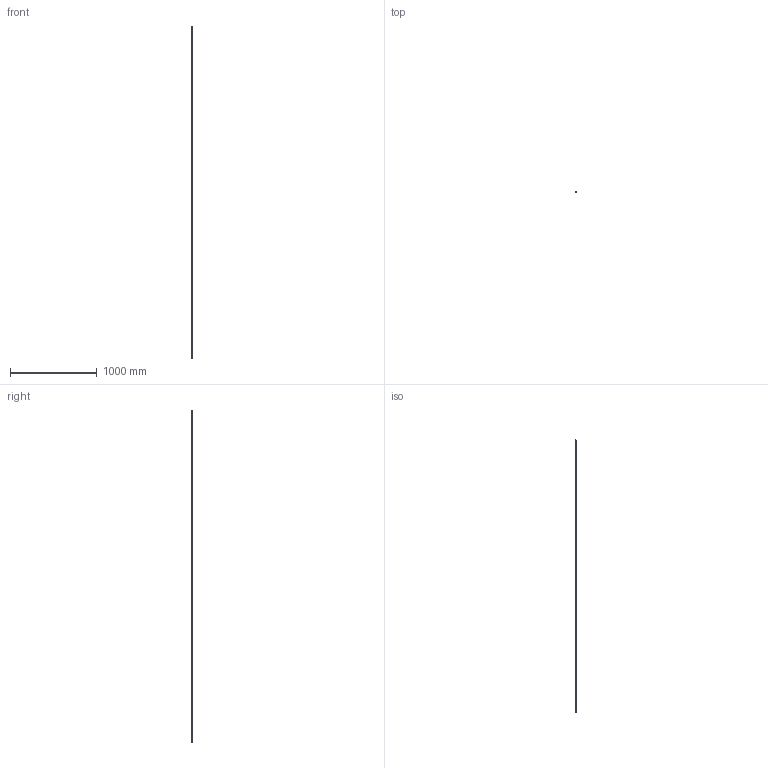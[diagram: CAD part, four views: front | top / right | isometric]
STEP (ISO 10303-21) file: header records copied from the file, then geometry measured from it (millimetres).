
FILE_DESCRIPTION((''),'2;1');
FILE_NAME('KUGELSCHIENE_CS_ASM','2021-10-14T09:50:24',('ac91sw'),(''),'CREO PARAMETRIC BY PTC INC, 2020044','CREO PARAMETRIC BY PTC INC, 2020044','');
FILE_SCHEMA(('AUTOMOTIVE_DESIGN { 1 0 10303 214 1 1 1 1 }'));
Length unit declared in the file: millimetre
Products named in the file (3): KUGELSCHIENE_CS_SKEL; KUGELSCHIENE_CS_RAIL1; KUGELSCHIENE_CS_ASM
Assembly tree (2 placements, depth 2):
  KUGELSCHIENE_CS_ASM
    KUGELSCHIENE_CS_SKEL
    KUGELSCHIENE_CS_RAIL1
Bounding box: 15 x 16.2 x 3836 mm (x, y, z)
Volume: 733807 mm3; surface area: 263204.9 mm2
Topology: 1 solids, 65 shells, 526 faces, 1332 edges, 808 vertices
Faces by surface type: cylinder 260, cone 136, plane 130
Entity records: 16813 total; most frequent: DIRECTION 2910, CARTESIAN_POINT 2613, ORIENTED_EDGE 2152, EDGE_CURVE 1204, AXIS2_PLACEMENT_3D 1189, VERTEX_POINT 808, CIRCLE 656, EDGE_LOOP 654
